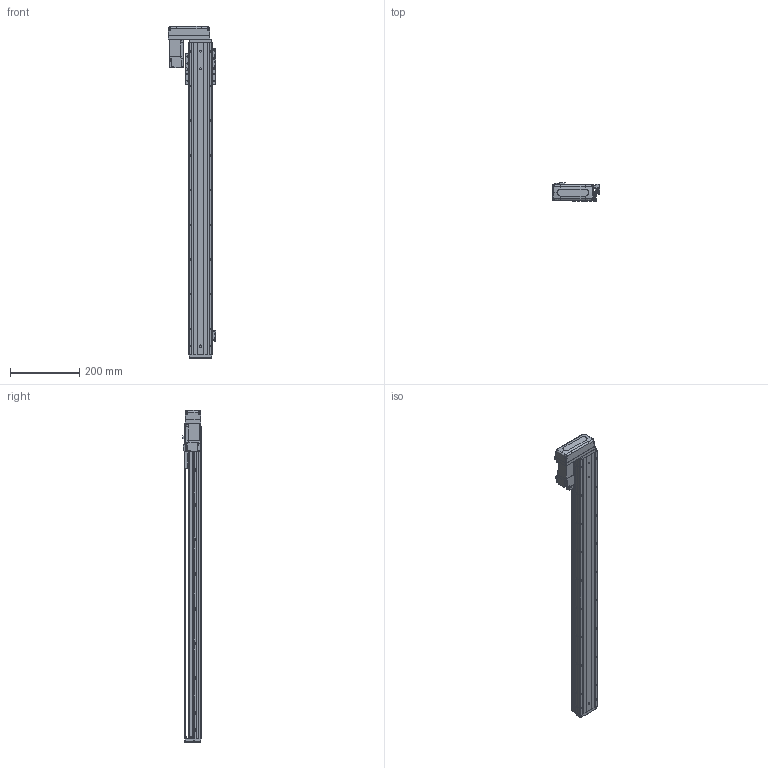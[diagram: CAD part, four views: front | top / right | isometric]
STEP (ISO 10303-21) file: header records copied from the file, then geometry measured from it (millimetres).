
FILE_DESCRIPTION (( 'STEP AP203' ), '1' );
FILE_NAME ('KTHAL60-750-BR-M10-C4L.step', '2022-03-19T08:45:35', ( '微软用户' ), ( '微软中国' ), 'SwSTEP 2.0', 'SolidWorks 2020', '' );
FILE_SCHEMA (( 'CONFIG_CONTROL_DESIGN' ));
Length unit declared in the file: millimetre
Products named in the file (18): GBT 70.1-M3℅6; GBT 70.3-M3℅6; CTHA60-016; EE_SX911P_R; HG-KR13（三菱）; KTHA60-001_900; CTHA60-017; CTHA60-015-2_CTHA60-015-2; KTHLA60-002; CTHA60-021; CTHA60-033; KTHA60-004; GBT 70.1-M4×16; GBT 70.1-M3×15; KTHA60-005; GBT77-2000M3-3; KTHAL60-750-BR-M10-C4L; GB¨uT 70.2-M3¡Á5_M3¡Á6
Assembly tree (51 placements, depth 2):
  KTHAL60-750-BR-M10-C4L
    KTHA60-001_900
    KTHLA60-002
    KTHA60-004
    KTHA60-005
    GB¨uT 70.2-M3¡Á5_M3¡Á6  x5
    GBT 70.3-M3℅6  x4
    EE_SX911P_R  x3
    CTHA60-017  x3
    CTHA60-021  x2
    GBT 70.1-M4×16  x10
    GBT77-2000M3-3  x6
    GBT 70.1-M3℅6  x6
    CTHA60-016
    HG-KR13（三菱）
    CTHA60-015-2_CTHA60-015-2
    CTHA60-033
    GBT 70.1-M3×15  x4
Bounding box: 137.82 x 52.3 x 957 mm (x, y, z)
Volume: 1943724 mm3; surface area: 480969.6 mm2
Topology: 54 solids, 54 shells, 2355 faces, 5611 edges, 3449 vertices
Faces by surface type: plane 1348, cylinder 577, cone 292, torus 98, bspline 26, sphere 14
Entity records: 41931 total; most frequent: CARTESIAN_POINT 7896, DIRECTION 6573, ORIENTED_EDGE 6366, EDGE_CURVE 3183, AXIS2_PLACEMENT_3D 2193, VECTOR 2187, LINE 2187, VERTEX_POINT 1998
